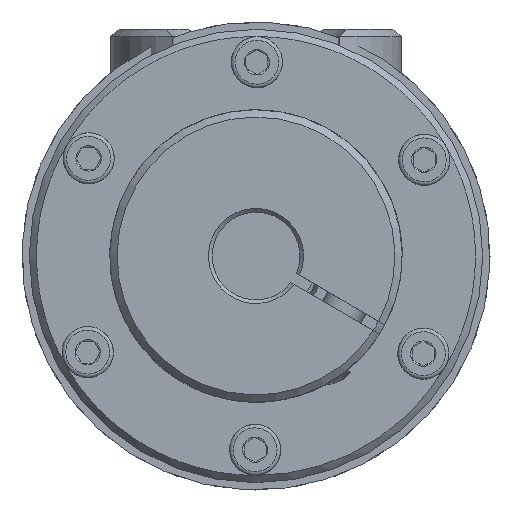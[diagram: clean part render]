
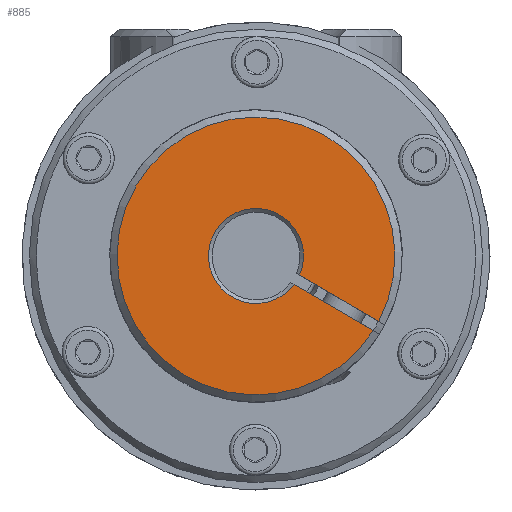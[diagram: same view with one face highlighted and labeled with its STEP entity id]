
A CAD part, left-side view. The second image highlights one B-rep face of the part: STEP entity #885.
In plain terms, the highlighted planar face has unit normal (-1, 0, 0) as drawn and (0, 0, -1) by its records, which use the part's own axes.
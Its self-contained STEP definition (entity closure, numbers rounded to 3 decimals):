
#885 = ADVANCED_FACE( '', ( #1872 ), #1873, .T. );
#1872 = FACE_OUTER_BOUND( '', #2875, .T. );
#1873 = PLANE( '', #2876 );
#2875 = EDGE_LOOP( '', ( #5349, #5350, #5351, #5352 ) );
#2876 = AXIS2_PLACEMENT_3D( '', #5353, #5354, #5355 );
#5349 = ORIENTED_EDGE( '', *, *, #6122, .T. );
#5350 = ORIENTED_EDGE( '', *, *, #6131, .T. );
#5351 = ORIENTED_EDGE( '', *, *, #6104, .F. );
#5352 = ORIENTED_EDGE( '', *, *, #6114, .T. );
#5353 = CARTESIAN_POINT( '', ( 0., 0., 0. ) );
#5354 = DIRECTION( '', ( 0., 0., -1. ) );
#5355 = DIRECTION( '', ( 0., -1., 0. ) );
#6104 = EDGE_CURVE( '', #7307, #7308, #7309, .F. );
#6114 = EDGE_CURVE( '', #7307, #7324, #7326, .T. );
#6122 = EDGE_CURVE( '', #7324, #7338, #7340, .T. );
#6131 = EDGE_CURVE( '', #7338, #7308, #7353, .F. );
#7307 = VERTEX_POINT( '', #9519 );
#7308 = VERTEX_POINT( '', #9520 );
#7309 = LINE( '', #9521, #9522 );
#7324 = VERTEX_POINT( '', #9554 );
#7326 = CIRCLE( '', #9559, 19. );
#7338 = VERTEX_POINT( '', #9574 );
#7340 = LINE( '', #9579, #9580 );
#7353 = CIRCLE( '', #9602, 6.5 );
#9519 = CARTESIAN_POINT( '', ( -18.985, 0.75, 0. ) );
#9520 = CARTESIAN_POINT( '', ( -6.457, 0.75, 0. ) );
#9521 = CARTESIAN_POINT( '', ( -20., 0.75, 0. ) );
#9522 = VECTOR( '', #10971, 1000. );
#9554 = CARTESIAN_POINT( '', ( -18.985, -0.75, 0. ) );
#9559 = AXIS2_PLACEMENT_3D( '', #10978, #10979, #10980 );
#9574 = CARTESIAN_POINT( '', ( -6.457, -0.75, 0. ) );
#9579 = CARTESIAN_POINT( '', ( 0., -0.75, 0. ) );
#9580 = VECTOR( '', #10993, 1000. );
#9602 = AXIS2_PLACEMENT_3D( '', #11010, #11011, #11012 );
#10971 = DIRECTION( '', ( -1., 0., 0. ) );
#10978 = CARTESIAN_POINT( '', ( 0., 0., 0. ) );
#10979 = DIRECTION( '', ( 0., 0., -1. ) );
#10980 = DIRECTION( '', ( -1., 0., 0. ) );
#10993 = DIRECTION( '', ( 1., 0., 0. ) );
#11010 = CARTESIAN_POINT( '', ( 0., 0., 0. ) );
#11011 = DIRECTION( '', ( 0., 0., -1. ) );
#11012 = DIRECTION( '', ( -1., 0., 0. ) );
